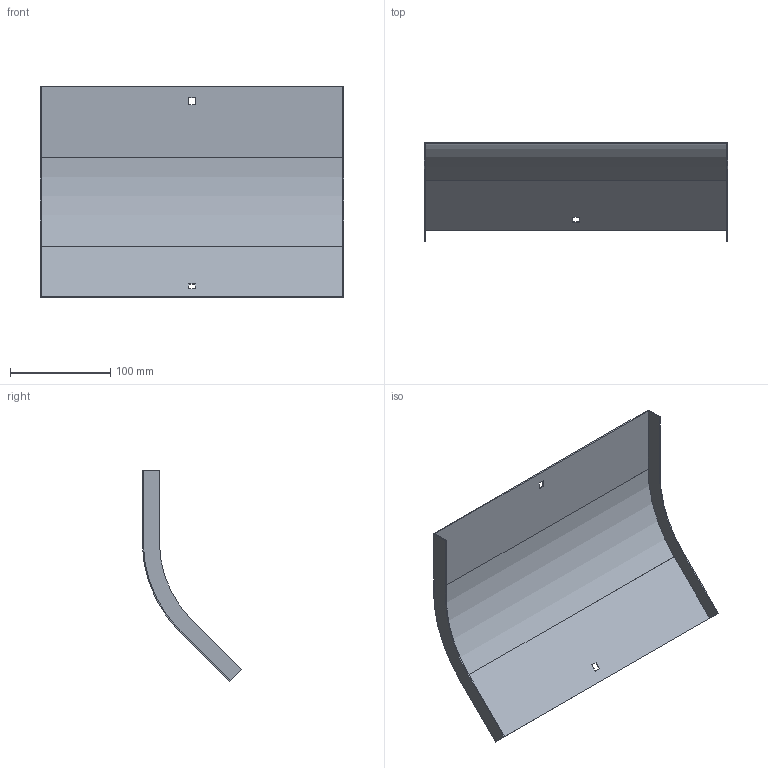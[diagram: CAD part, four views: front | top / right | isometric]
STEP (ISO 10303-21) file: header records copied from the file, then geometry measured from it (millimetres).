
FILE_DESCRIPTION (( 'STEP AP214' ), '1' );
FILE_NAME ('OD4_307.step', '2025-07-16T09:11:55', ( '' ), ( '' ), 'SwSTEP 2.0', 'SolidWorks 2023', '' );
FILE_SCHEMA (( 'AUTOMOTIVE_DESIGN' ));
Length unit declared in the file: millimetre
Products named in the file (1): OD4_307
Bounding box: 302 x 99.13 x 210.3 mm (x, y, z)
Volume: 80051.9 mm3; surface area: 161279.8 mm2
Topology: 1 solids, 1 shells, 26 faces, 72 edges, 48 vertices
Faces by surface type: plane 22, cylinder 4
Entity records: 855 total; most frequent: CARTESIAN_POINT 147, ORIENTED_EDGE 144, DIRECTION 134, EDGE_CURVE 72, LINE 64, VECTOR 64, VERTEX_POINT 48, AXIS2_PLACEMENT_3D 35
